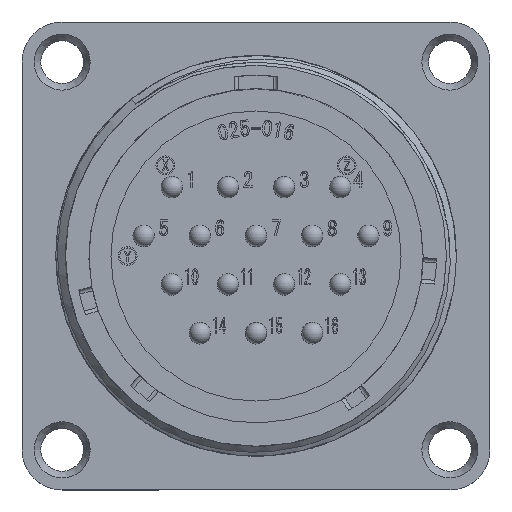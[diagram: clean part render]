
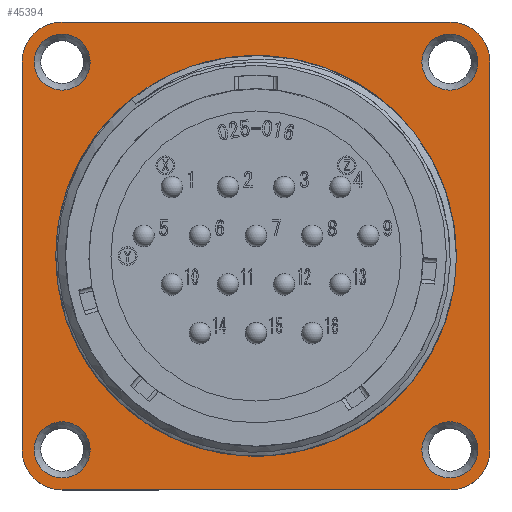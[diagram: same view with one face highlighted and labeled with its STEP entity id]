
A CAD part, top view. The second image highlights one B-rep face of the part: STEP entity #45394.
In plain terms, the highlighted planar face has unit normal (0, 0, 1).
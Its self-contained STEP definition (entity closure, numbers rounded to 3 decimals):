
#393 = DIRECTION ( 'NONE',  ( -1., 0., 0. ) ) ;
#1014 = CARTESIAN_POINT ( 'NONE',  ( 14.5, 17.5, -10.5 ) ) ;
#1259 = CIRCLE ( 'NONE', #21888, 2.1 ) ;
#1360 = LINE ( 'NONE', #1014, #41827 ) ;
#1934 = LINE ( 'NONE', #47014, #51883 ) ;
#2358 = CARTESIAN_POINT ( 'NONE',  ( -17.5, 14.5, -10.5 ) ) ;
#3106 = CIRCLE ( 'NONE', #26420, 2.1 ) ;
#3175 = VERTEX_POINT ( 'NONE', #21284 ) ;
#3192 = CARTESIAN_POINT ( 'NONE',  ( 16.6, 14.5, -10.5 ) ) ;
#3499 = EDGE_CURVE ( 'NONE', #31329, #5907, #33445, .T. ) ;
#3504 = DIRECTION ( 'NONE',  ( 0., 0., -1. ) ) ;
#3766 = CARTESIAN_POINT ( 'NONE',  ( -14.5, -14.5, -10.5 ) ) ;
#4680 = CARTESIAN_POINT ( 'NONE',  ( 14.5, 17.5, -10.5 ) ) ;
#5266 = CARTESIAN_POINT ( 'NONE',  ( 14.5, 14.5, -10.5 ) ) ;
#5907 = VERTEX_POINT ( 'NONE', #36408 ) ;
#6315 = CARTESIAN_POINT ( 'NONE',  ( -14.5, 14.5, -10.5 ) ) ;
#6453 = ORIENTED_EDGE ( 'NONE', *, *, #24325, .F. ) ;
#6968 = DIRECTION ( 'NONE',  ( 0., 0., -1. ) ) ;
#7003 = DIRECTION ( 'NONE',  ( 1., 0., 0. ) ) ;
#7217 = VERTEX_POINT ( 'NONE', #23628 ) ;
#8441 = DIRECTION ( 'NONE',  ( 1., 0., 0. ) ) ;
#8864 = ORIENTED_EDGE ( 'NONE', *, *, #3499, .F. ) ;
#9227 = FACE_BOUND ( 'NONE', #15443, .T. ) ;
#9780 = DIRECTION ( 'NONE',  ( 0., 0., -1. ) ) ;
#10214 = VERTEX_POINT ( 'NONE', #35641 ) ;
#10370 = AXIS2_PLACEMENT_3D ( 'NONE', #3766, #51263, #17167 ) ;
#10454 = DIRECTION ( 'NONE',  ( 1., 0., 0. ) ) ;
#10662 = EDGE_CURVE ( 'NONE', #28745, #28745, #24305, .T. ) ;
#10993 = CARTESIAN_POINT ( 'NONE',  ( 17.5, 14.5, -10.5 ) ) ;
#11368 = AXIS2_PLACEMENT_3D ( 'NONE', #15142, #49632, #23814 ) ;
#11654 = EDGE_LOOP ( 'NONE', ( #49136 ) ) ;
#11747 = ORIENTED_EDGE ( 'NONE', *, *, #50143, .F. ) ;
#13468 = AXIS2_PLACEMENT_3D ( 'NONE', #5266, #18483, #48763 ) ;
#13592 = AXIS2_PLACEMENT_3D ( 'NONE', #20203, #54657, #7003 ) ;
#13673 = DIRECTION ( 'NONE',  ( 1., 0., 0. ) ) ;
#13712 = VECTOR ( 'NONE', #15942, 1000. ) ;
#14838 = EDGE_LOOP ( 'NONE', ( #31738 ) ) ;
#15142 = CARTESIAN_POINT ( 'NONE',  ( 14.5, -14.5, -10.5 ) ) ;
#15158 = VERTEX_POINT ( 'NONE', #24523 ) ;
#15443 = EDGE_LOOP ( 'NONE', ( #50604 ) ) ;
#15942 = DIRECTION ( 'NONE',  ( 0., 1., 0. ) ) ;
#16215 = EDGE_LOOP ( 'NONE', ( #53061 ) ) ;
#16398 = CARTESIAN_POINT ( 'NONE',  ( -12.4, 14.5, -10.5 ) ) ;
#17167 = DIRECTION ( 'NONE',  ( 1., 0., 0. ) ) ;
#18483 = DIRECTION ( 'NONE',  ( 0., 0., 1. ) ) ;
#19322 = CIRCLE ( 'NONE', #43791, 14.98 ) ;
#20056 = FACE_BOUND ( 'NONE', #11654, .T. ) ;
#20203 = CARTESIAN_POINT ( 'NONE',  ( 14.5, -14.5, -10.5 ) ) ;
#21284 = CARTESIAN_POINT ( 'NONE',  ( -14.5, -17.5, -10.5 ) ) ;
#21888 = AXIS2_PLACEMENT_3D ( 'NONE', #6315, #48708, #10454 ) ;
#22456 = LINE ( 'NONE', #2358, #13712 ) ;
#23628 = CARTESIAN_POINT ( 'NONE',  ( 17.5, -14.5, -10.5 ) ) ;
#23814 = DIRECTION ( 'NONE',  ( -1., 0., 0. ) ) ;
#24080 = EDGE_CURVE ( 'NONE', #15158, #15158, #19322, .T. ) ;
#24305 = CIRCLE ( 'NONE', #13592, 2.1 ) ;
#24325 = EDGE_CURVE ( 'NONE', #48651, #7217, #25412, .T. ) ;
#24466 = DIRECTION ( 'NONE',  ( 1., 0., 0. ) ) ;
#24523 = CARTESIAN_POINT ( 'NONE',  ( 14.98, 0., -10.5 ) ) ;
#25412 = LINE ( 'NONE', #35564, #35485 ) ;
#26420 = AXIS2_PLACEMENT_3D ( 'NONE', #43819, #44005, #13673 ) ;
#27687 = EDGE_CURVE ( 'NONE', #7217, #37916, #44422, .T. ) ;
#28745 = VERTEX_POINT ( 'NONE', #45594 ) ;
#29252 = DIRECTION ( 'NONE',  ( 1., 0., 0. ) ) ;
#29541 = DIRECTION ( 'NONE',  ( -1., 0., 0. ) ) ;
#29824 = CARTESIAN_POINT ( 'NONE',  ( -12.4, -14.5, -10.5 ) ) ;
#29968 = CARTESIAN_POINT ( 'NONE',  ( -17.5, 14.5, -10.5 ) ) ;
#31329 = VERTEX_POINT ( 'NONE', #29968 ) ;
#31738 = ORIENTED_EDGE ( 'NONE', *, *, #37245, .F. ) ;
#32162 = FACE_BOUND ( 'NONE', #16215, .T. ) ;
#32202 = EDGE_LOOP ( 'NONE', ( #35365, #11747, #46300, #6453, #49948, #44333, #8864, #34556 ) ) ;
#32717 = VERTEX_POINT ( 'NONE', #29824 ) ;
#33229 = AXIS2_PLACEMENT_3D ( 'NONE', #35060, #9780, #393 ) ;
#33445 = CIRCLE ( 'NONE', #51761, 3. ) ;
#34278 = DIRECTION ( 'NONE',  ( 0., 0., 1. ) ) ;
#34556 = ORIENTED_EDGE ( 'NONE', *, *, #39236, .F. ) ;
#35060 = CARTESIAN_POINT ( 'NONE',  ( 14.5, 14.5, -10.5 ) ) ;
#35365 = ORIENTED_EDGE ( 'NONE', *, *, #47766, .F. ) ;
#35485 = VECTOR ( 'NONE', #39877, 1000. ) ;
#35564 = CARTESIAN_POINT ( 'NONE',  ( 17.5, 14.5, -10.5 ) ) ;
#35641 = CARTESIAN_POINT ( 'NONE',  ( -17.5, -14.5, -10.5 ) ) ;
#36181 = FACE_BOUND ( 'NONE', #14838, .T. ) ;
#36408 = CARTESIAN_POINT ( 'NONE',  ( -14.5, 17.5, -10.5 ) ) ;
#36924 = ORIENTED_EDGE ( 'NONE', *, *, #24080, .T. ) ;
#37245 = EDGE_CURVE ( 'NONE', #40105, #40105, #48148, .T. ) ;
#37401 = CIRCLE ( 'NONE', #10370, 3. ) ;
#37916 = VERTEX_POINT ( 'NONE', #48701 ) ;
#39236 = EDGE_CURVE ( 'NONE', #10214, #31329, #22456, .T. ) ;
#39604 = AXIS2_PLACEMENT_3D ( 'NONE', #55154, #34278, #8441 ) ;
#39877 = DIRECTION ( 'NONE',  ( 0., -1., 0. ) ) ;
#40104 = CARTESIAN_POINT ( 'NONE',  ( 0., 0., -10.5 ) ) ;
#40105 = VERTEX_POINT ( 'NONE', #3192 ) ;
#40877 = FACE_OUTER_BOUND ( 'NONE', #32202, .T. ) ;
#41827 = VECTOR ( 'NONE', #48136, 1000. ) ;
#43481 = CIRCLE ( 'NONE', #33229, 3. ) ;
#43569 = EDGE_CURVE ( 'NONE', #46880, #46880, #1259, .T. ) ;
#43791 = AXIS2_PLACEMENT_3D ( 'NONE', #40104, #6968, #29252 ) ;
#43819 = CARTESIAN_POINT ( 'NONE',  ( -14.5, -14.5, -10.5 ) ) ;
#44005 = DIRECTION ( 'NONE',  ( 0., 0., 1. ) ) ;
#44333 = ORIENTED_EDGE ( 'NONE', *, *, #51158, .F. ) ;
#44422 = CIRCLE ( 'NONE', #11368, 3. ) ;
#45394 = ADVANCED_FACE ( 'NONE', ( #9227, #32162, #36181, #20056, #53039, #40877 ), #46892, .T. ) ;
#45594 = CARTESIAN_POINT ( 'NONE',  ( 16.6, -14.5, -10.5 ) ) ;
#46300 = ORIENTED_EDGE ( 'NONE', *, *, #27687, .F. ) ;
#46880 = VERTEX_POINT ( 'NONE', #16398 ) ;
#46892 = PLANE ( 'NONE',  #39604 ) ;
#47014 = CARTESIAN_POINT ( 'NONE',  ( 14.5, -17.5, -10.5 ) ) ;
#47766 = EDGE_CURVE ( 'NONE', #3175, #10214, #37401, .T. ) ;
#48136 = DIRECTION ( 'NONE',  ( 1., 0., 0. ) ) ;
#48148 = CIRCLE ( 'NONE', #13468, 2.1 ) ;
#48651 = VERTEX_POINT ( 'NONE', #10993 ) ;
#48701 = CARTESIAN_POINT ( 'NONE',  ( 14.5, -17.5, -10.5 ) ) ;
#48708 = DIRECTION ( 'NONE',  ( 0., 0., 1. ) ) ;
#48763 = DIRECTION ( 'NONE',  ( 1., 0., 0. ) ) ;
#49136 = ORIENTED_EDGE ( 'NONE', *, *, #43569, .F. ) ;
#49372 = EDGE_CURVE ( 'NONE', #54890, #48651, #43481, .T. ) ;
#49632 = DIRECTION ( 'NONE',  ( 0., 0., -1. ) ) ;
#49948 = ORIENTED_EDGE ( 'NONE', *, *, #49372, .F. ) ;
#50143 = EDGE_CURVE ( 'NONE', #37916, #3175, #1934, .T. ) ;
#50390 = EDGE_LOOP ( 'NONE', ( #36924 ) ) ;
#50604 = ORIENTED_EDGE ( 'NONE', *, *, #55422, .F. ) ;
#51158 = EDGE_CURVE ( 'NONE', #5907, #54890, #1360, .T. ) ;
#51263 = DIRECTION ( 'NONE',  ( 0., 0., -1. ) ) ;
#51761 = AXIS2_PLACEMENT_3D ( 'NONE', #55131, #3504, #24466 ) ;
#51883 = VECTOR ( 'NONE', #29541, 1000. ) ;
#53039 = FACE_BOUND ( 'NONE', #50390, .T. ) ;
#53061 = ORIENTED_EDGE ( 'NONE', *, *, #10662, .F. ) ;
#54657 = DIRECTION ( 'NONE',  ( 0., 0., 1. ) ) ;
#54890 = VERTEX_POINT ( 'NONE', #4680 ) ;
#55131 = CARTESIAN_POINT ( 'NONE',  ( -14.5, 14.5, -10.5 ) ) ;
#55154 = CARTESIAN_POINT ( 'NONE',  ( -14.5, -14.5, -10.5 ) ) ;
#55422 = EDGE_CURVE ( 'NONE', #32717, #32717, #3106, .T. ) ;
